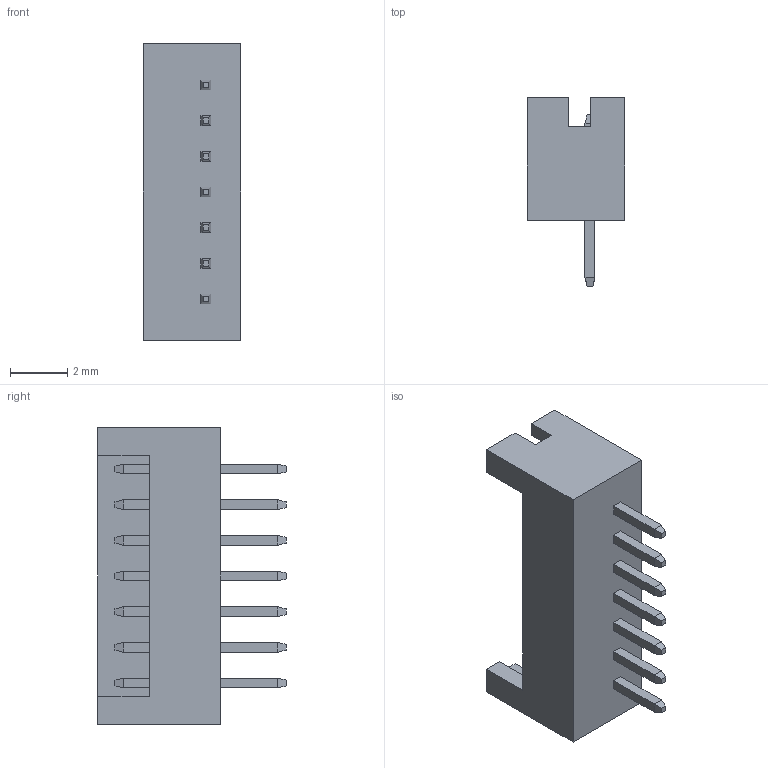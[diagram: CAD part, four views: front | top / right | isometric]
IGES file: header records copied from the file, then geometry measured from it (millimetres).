
Global section: file name: T:/3DWEB公開/NCW/DF13/DF13-P-DSA/DF13-7P-1.25DSA, ; native system: SolidDesigner 12.00  10-Sep-2003; preprocessor: OneSpace IGES_3D V1.0; author: Unknown; organization: Unknown; date: 20070323.082932; units: millimetre
Bounding box: 3.4 x 6.6 x 10.4 mm (x, y, z)
Volume: 78.9 mm3; surface area: 274.4 mm2
Topology: 1 solids, 1 shells, 148 faces, 340 edges, 208 vertices
Faces by surface type: bspline 148
